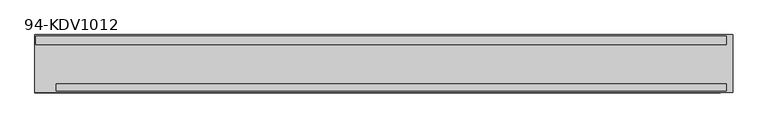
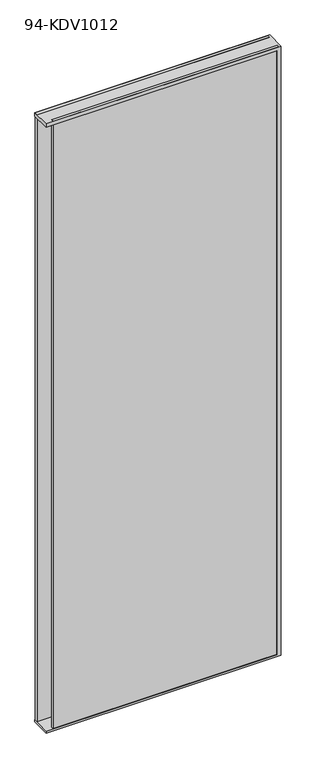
"""IFC4 building model written with IfcOpenShell, lengths in millimetres: plate geometry, PNX_VITRE_DV : 94-KDV1012."""

from ifc_helpers import new_model, si_unit, frame, origin, origin_with_axes, place, context, project, spatial, polyline, outline, extrude, source, transform, mapped, element, save


def plate_94_kdv1012_c7b27a3e(model_context):
    return source(origin(), model_context, "Body", "SweptSolid", [
        extrude(outline(polyline([(491.0, 39.5), (491.0, 27.5), (-499.0, 27.5), (-499.0, 39.5), (491.0, 39.5)])), origin_with_axes(), (0.0, 0.0, 1.0), 2739.0),
        extrude(outline(polyline([(491.0, -29.5), (491.0, -39.5), (-469.7, -39.5), (-469.7, -29.5), (491.0, -29.5)])), origin_with_axes(), (0.0, 0.0, 1.0), 2739.0),
        extrude(outline(polyline([(2739.0, -500.0), (2724.0, -500.0), (2724.0, 482.0), (9.0, 482.0), (9.0, -500.0), (0.0, -500.0), (0.0, 500.0), (2739.0, 500.0), (2739.0, -500.0)])), frame((0.0, -41.5, 0.0), z_axis=(0.0, 1.0, 0.0), x_axis=(0.0, 0.0, 1.0)), (0.0, 0.0, 1.0), 83.0),
    ])


if __name__ == "__main__":
    model = new_model("IFC4")
    model_context = context("Model", 3, world=origin())
    ifc_project = project(units=[si_unit("LENGTHUNIT", "METRE", prefix="MILLI")], contexts=[model_context])
    site = spatial("IfcSite", under=ifc_project)
    building = spatial("IfcBuilding", under=site)
    placement = place(None, origin())
    plate_94_kdv1012_shape = plate_94_kdv1012_c7b27a3e(model_context)
    element("IfcPlate", 1, ObjectType="PNX_VITRE_DV : 94-KDV1012", at=placement, inside=building, context=model_context, shape_type="MappedRepresentation", body=[
        mapped(plate_94_kdv1012_shape, transform((0.0, 0.0, 0.0), x_axis=(1.0, 0.0, 0.0), y_axis=(0.0, 1.0, 0.0), z_axis=(0.0, 0.0, 1.0))),
    ])
    save(model, "model.ifc")
